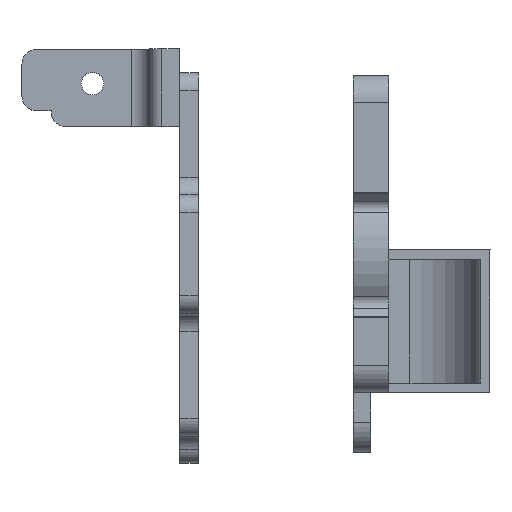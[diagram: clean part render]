
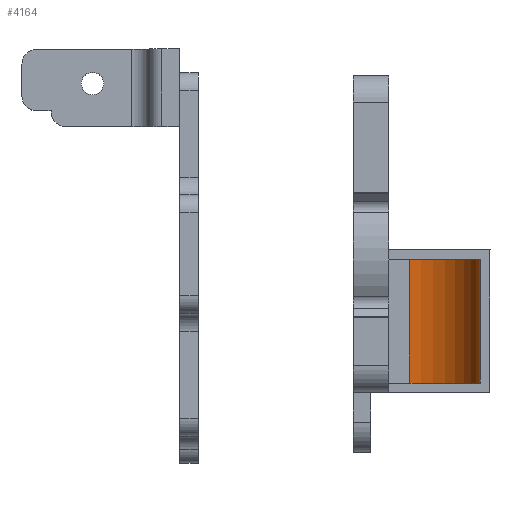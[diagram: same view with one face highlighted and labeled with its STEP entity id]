
A CAD part, top view. The second image highlights one B-rep face of the part: STEP entity #4164.
In plain terms, the highlighted cylindrical face has radius 12 mm (diameter 24 mm), a partial arc.
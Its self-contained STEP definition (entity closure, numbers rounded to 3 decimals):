
#229=FACE_OUTER_BOUND('',#462,.T.);
#462=EDGE_LOOP('',(#3038,#3039,#3040,#3041));
#807=LINE('',#6560,#1183);
#808=LINE('',#6563,#1184);
#1183=VECTOR('',#5203,10.);
#1184=VECTOR('',#5206,10.);
#1566=CIRCLE('',#4495,12.);
#1568=CIRCLE('',#4501,12.);
#1892=VERTEX_POINT('',#6543);
#1893=VERTEX_POINT('',#6545);
#1896=VERTEX_POINT('',#6559);
#1897=VERTEX_POINT('',#6561);
#2343=EDGE_CURVE('',#1892,#1893,#1566,.T.);
#2350=EDGE_CURVE('',#1892,#1896,#807,.T.);
#2351=EDGE_CURVE('',#1897,#1896,#1568,.T.);
#2352=EDGE_CURVE('',#1897,#1893,#808,.T.);
#3038=ORIENTED_EDGE('',*,*,#2343,.F.);
#3039=ORIENTED_EDGE('',*,*,#2350,.T.);
#3040=ORIENTED_EDGE('',*,*,#2351,.F.);
#3041=ORIENTED_EDGE('',*,*,#2352,.T.);
#4036=CYLINDRICAL_SURFACE('',#4500,12.);
#4164=ADVANCED_FACE('',(#229),#4036,.F.);
#4495=AXIS2_PLACEMENT_3D('',#6546,#5186,#5187);
#4500=AXIS2_PLACEMENT_3D('',#6558,#5201,#5202);
#4501=AXIS2_PLACEMENT_3D('',#6562,#5204,#5205);
#5186=DIRECTION('center_axis',(0.,0.,
-1.));
#5187=DIRECTION('ref_axis',(-0.707,-0.707,0.));
#5201=DIRECTION('center_axis',(0.,0.,
1.));
#5202=DIRECTION('ref_axis',(-0.707,-0.707,0.));
#5203=DIRECTION('',(0.,0.,-1.));
#5204=DIRECTION('center_axis',(0.,0.,
1.));
#5205=DIRECTION('ref_axis',(-0.707,-0.707,0.));
#5206=DIRECTION('',(0.,0.,1.));
#6543=CARTESIAN_POINT('',(-16.893,-8.051,41.66));
#6545=CARTESIAN_POINT('',(-28.893,3.949,41.66));
#6546=CARTESIAN_POINT('Origin',(-16.893,3.949,41.66));
#6558=CARTESIAN_POINT('Origin',(-16.893,3.949,20.86));
#6559=CARTESIAN_POINT('',(-16.893,-8.051,20.86));
#6560=CARTESIAN_POINT('',(-16.893,-8.051,20.86));
#6561=CARTESIAN_POINT('',(-28.893,3.949,20.86));
#6562=CARTESIAN_POINT('Origin',(-16.893,3.949,20.86));
#6563=CARTESIAN_POINT('',(-28.893,3.949,20.86));
